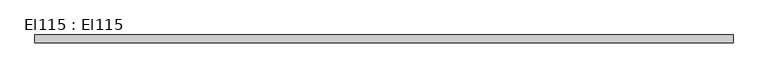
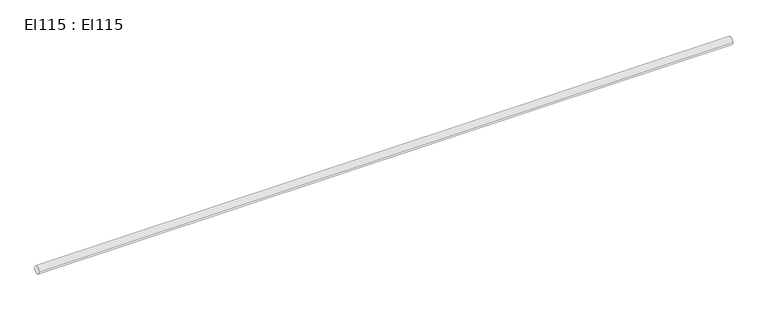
"""IFC4 building model written with IfcOpenShell, lengths in millimetres: cable carrier segment geometry, El115 : El115."""

from ifc_helpers import new_model, si_unit, point, frame, frame_2d, origin, place, context, project, spatial, circle_curve, trimmed, segment, composite_curve, outline, extrude, source, transform, mapped, element, save


def el115_el115_bbec60ef(model_context):
    return source(origin(), model_context, "Body", "SweptSolid", [
        extrude(outline(composite_curve([segment(trimmed(circle_curve(frame_2d((11747.1, 2950.0)), 9.5), [point((11737.6, 2950.0))], [point((11756.6, 2950.0))], False, "CARTESIAN"), True, "CONTINUOUS"), segment(trimmed(circle_curve(frame_2d((11747.1, 2950.0)), 9.5), [point((11756.6, 2950.0))], [point((11737.6, 2950.0))], False, "CARTESIAN"), True, "CONTINUOUS")], self_intersect=False)), frame((29941.7, 0.0, 0.0), z_axis=(1.0, 0.0, 0.0), x_axis=(0.0, 1.0, 0.0)), (0.0, 0.0, 1.0), 1725.0),
    ])


if __name__ == "__main__":
    model = new_model("IFC4")
    model_context = context("Model", 3, world=origin())
    ifc_project = project(units=[si_unit("LENGTHUNIT", "METRE", prefix="MILLI")], contexts=[model_context])
    site = spatial("IfcSite", under=ifc_project)
    building = spatial("IfcBuilding", under=site)
    placement = place(None, origin())
    el115_el115_shape = el115_el115_bbec60ef(model_context)
    element("IfcCableCarrierSegment", 1, ObjectType="El115 : El115", at=placement, inside=building, context=model_context, shape_type="MappedRepresentation", body=[
        mapped(el115_el115_shape, transform((0.0, 0.0, 0.0), x_axis=(1.0, 0.0, 0.0), y_axis=(0.0, 1.0, 0.0), z_axis=(0.0, 0.0, 1.0))),
    ])
    save(model, "model.ifc")
